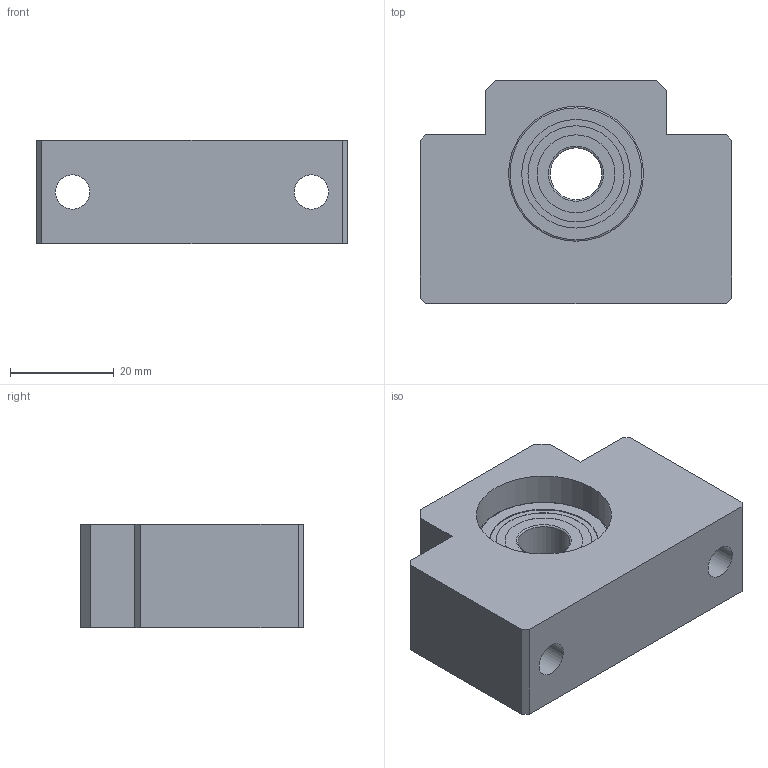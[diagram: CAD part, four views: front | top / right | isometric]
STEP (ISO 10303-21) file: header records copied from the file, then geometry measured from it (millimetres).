
FILE_DESCRIPTION(/* description */ ('STEP AP214'),/* implementation_level */ '2;1');
FILE_NAME(/* name */ 'BF12',/* time_stamp */ '2026-09-17T13:12:18+02:00',/* author */ ('License CC BY-ND 4.0'),/* organization */ ('CADENAS'),/* preprocessor_version */ 'ST-DEVELOPER v20',/* originating_system */ 'PARTsolutions',/* authorisation */ ' ');
FILE_SCHEMA (('AUTOMOTIVE_DESIGN {1 0 10303 214 3 1 1}'));
Length unit declared in the file: millimetre
Products named in the file (3): BF12; BF 12 Part1; BF 12 Part2
Assembly tree (2 placements, depth 2):
  BF12
    BF 12 Part1
    BF 12 Part2
Bounding box: 60 x 43 x 20 mm (x, y, z)
Volume: 36795.7 mm3; surface area: 12293.3 mm2
Topology: 2 solids, 2 shells, 43 faces, 90 edges, 59 vertices
Faces by surface type: plane 26, cylinder 13, torus 4
Full cylindrical faces by diameter (mm): 6.6 x2, 10 x1, 10.8 x2, 15 x2, 18.5 x2, 20.9 x2, 26 x2
Entity records: 1147 total; most frequent: DIRECTION 194, CARTESIAN_POINT 176, ORIENTED_EDGE 144, EDGE_LOOP 76, FACE_BOUND 76, AXIS2_PLACEMENT_3D 76, EDGE_CURVE 72, VERTEX_POINT 58
